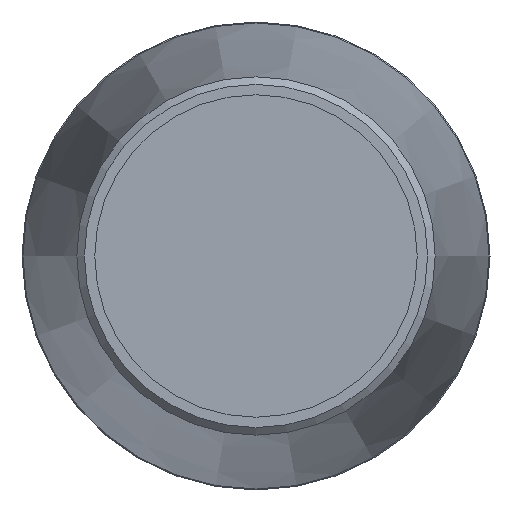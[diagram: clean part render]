
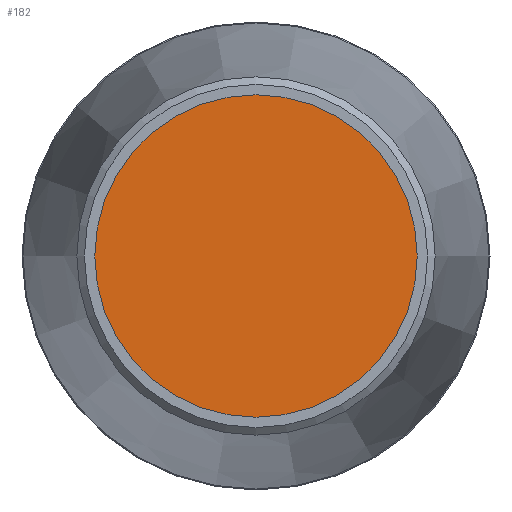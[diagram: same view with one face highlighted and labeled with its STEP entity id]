
A CAD part, left-side view. The second image highlights one B-rep face of the part: STEP entity #182.
In plain terms, the highlighted planar face has unit normal (-1, 0, 0).
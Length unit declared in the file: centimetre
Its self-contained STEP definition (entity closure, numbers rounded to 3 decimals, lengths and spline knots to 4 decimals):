
#20=PLANE('',#211);
#45=FACE_OUTER_BOUND('',#70,.T.);
#70=EDGE_LOOP('',(#140));
#88=CIRCLE('',#210,4.65);
#102=VERTEX_POINT('',#311);
#116=EDGE_CURVE('',#102,#102,#88,.T.);
#140=ORIENTED_EDGE('',*,*,#116,.T.);
#182=ADVANCED_FACE('',(#45),#20,.T.);
#210=AXIS2_PLACEMENT_3D('',#312,#263,#264);
#211=AXIS2_PLACEMENT_3D('',#313,#265,#266);
#263=DIRECTION('center_axis',(-1.,0.,0.));
#264=DIRECTION('ref_axis',(0.,0.,1.));
#265=DIRECTION('center_axis',(-1.,0.,0.));
#266=DIRECTION('ref_axis',(0.,0.,1.));
#311=CARTESIAN_POINT('',(-27.8,-4.65,0.));
#312=CARTESIAN_POINT('Origin',(-27.8,0.,0.));
#313=CARTESIAN_POINT('Origin',(-27.8,0.,0.));
